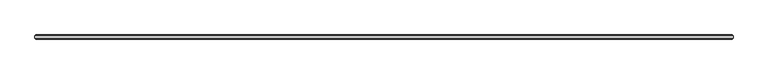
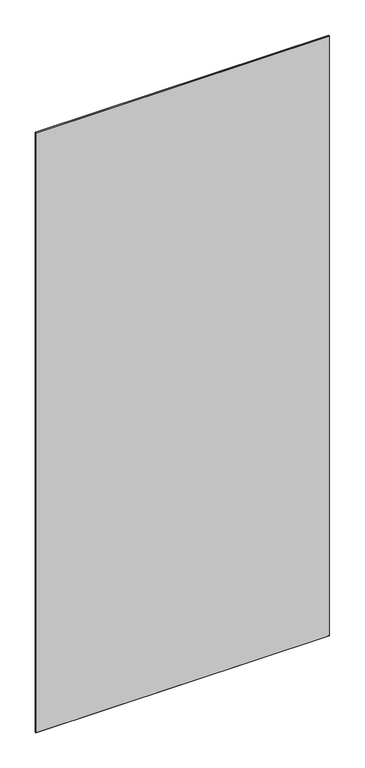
"""IFC4 building model written with IfcOpenShell, lengths in millimetres: plate geometry, 1-AMG-1-Панель одинарный витраж 8, 10 : Смещение 32 Толщина 8mm."""

from ifc_helpers import new_model, si_unit, origin, place, context, project, spatial, faceted_brep, source, transform, mapped, element, save


def plate_2c01cf1b(model_context):
    return source(origin(), model_context, "Body", "Brep", [
        faceted_brep([(634.4809926, 29.5038347, 2722.8), (634.4809926, 34.4961653, 2722.8), (-629.4809926, 34.4961653, 2722.8), (-629.4809926, 29.5038347, 2722.8), (634.4809926, 34.4961653, -7.0), (634.4809926, 29.5038347, -7.0), (-629.4809926, 29.5038347, -7.0), (-629.4809926, 34.4961653, -7.0), (-627.9771579, 36.0, 2721.2961653), (632.9771579, 36.0, 2721.2961653), (632.9771579, 36.0, -5.5039422), (-627.9771579, 36.0, -5.5039422), (632.9771579, 28.0, 2721.2961653), (-627.9771579, 28.0, 2721.2961653), (-627.9771579, 28.0, -5.4961653), (632.9771579, 28.0, -5.4961653)], [[[0, 1, 2, 3]], [[4, 5, 6, 7]], [[8, 9, 10, 11]], [[3, 2, 7, 6]], [[12, 13, 14, 15]], [[1, 0, 5, 4]], [[1, 4, 10, 9]], [[5, 0, 12, 15]], [[7, 2, 8, 11]], [[3, 6, 14, 13]], [[0, 3, 13, 12]], [[2, 1, 9, 8]], [[6, 5, 15, 14]], [[4, 7, 11, 10]]]),
    ])


if __name__ == "__main__":
    model = new_model("IFC4")
    model_context = context("Model", 3, world=origin())
    ifc_project = project(units=[si_unit("LENGTHUNIT", "METRE", prefix="MILLI")], contexts=[model_context])
    site = spatial("IfcSite", under=ifc_project)
    building = spatial("IfcBuilding", under=site)
    placement = place(None, origin())
    plate_shape = plate_2c01cf1b(model_context)
    element("IfcPlate", 1, ObjectType="1-AMG-1-Панель одинарный витраж 8, 10 : Смещение 32 Толщина 8mm", at=placement, inside=building, context=model_context, shape_type="MappedRepresentation", body=[
        mapped(plate_shape, transform((0.0, 0.0, 0.0), x_axis=(1.0, 0.0, 0.0), y_axis=(0.0, 1.0, 0.0), z_axis=(0.0, 0.0, 1.0))),
    ])
    save(model, "model.ifc")
